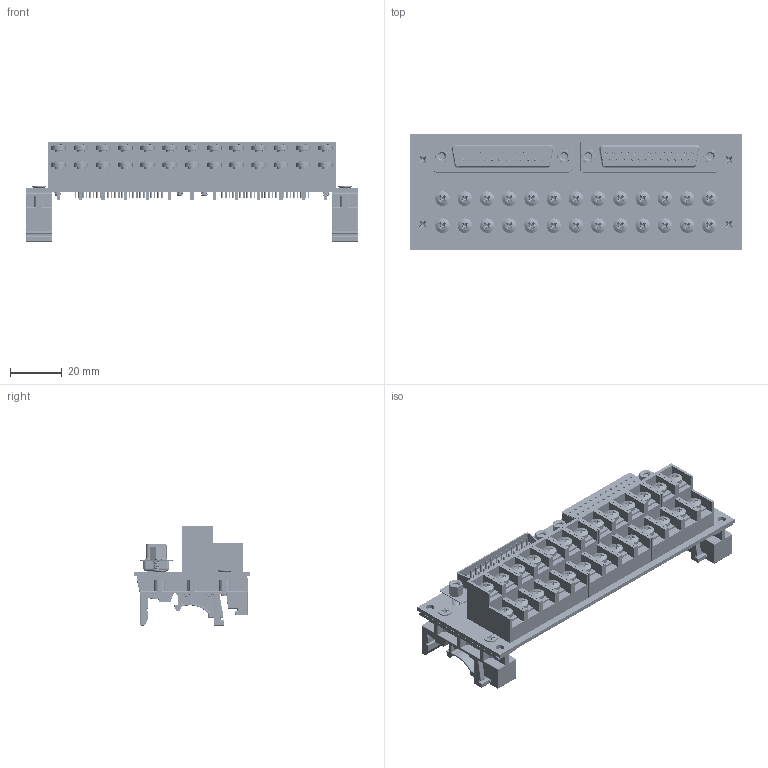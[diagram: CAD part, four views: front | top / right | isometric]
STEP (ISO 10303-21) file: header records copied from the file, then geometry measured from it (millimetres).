
FILE_DESCRIPTION(('FreeCAD Model'),'2;1');
FILE_NAME('C:/ws/KiCad/interface-terminal-converter/dsub25-terminal/latest/dsub25-terminal/step/db25mf-tb2x13_din_step.step','2020-12-24T22:47:28',( 'Author'),(''),'Open CASCADE STEP processor 7.3','FreeCAD','Unknown' );
FILE_SCHEMA(('AUTOMOTIVE_DESIGN { 1 0 10303 214 1 1 1 1 }'));
Length unit declared in the file: millimetre
Products named in the file (41): Step_Virtual_Models_fd73; TopV_fd73; DRA1_User_Library-CMI00027_5FC1CAA7; DRA1_M3x10-Screw_5FC1CAA7[2]; DRA1_M3x10-Screw_5FC1CAA7[3]; DRA2_User_Library-CMI00027_5FBEFB21; DRA2_M3x10-Screw_5FBEFB21[2]; DRA2_M3x10-Screw_5FBEFB21[3]; Step_Models_fd73; Top_fd73; J1_DSUB-25_Female_Vertical_P2.77x2.84mm_MountingHoles_5FBEE4FE; J1_74m9499_5205818-2_5FBEE4FE[2]; J1_74m9499_5205818-2_5FBEE4FE[3]; J2_DSUB-25_Male_Vertical_P2.77x2.84mm_MountingHoles_5FBEF1C9; J2_74m9499_5205818-2_5FBEF1C9[2]; J2_74m9499_5205818-2_5FBEF1C9[3]; TB1_KF8500HL-8.5-1P_5FBEE707; TB1_KF8500HL-8.5-1P_5FBEE707[2]; TB1_KF8500HL-8.5-1P_5FBEE707[3]; TB1_KF8500HL-8.5-1P_5FBEE707[4]; TB1_KF8500HL-8.5-1P_5FBEE707[5]; TB1_KF8500HL-8.5-1P_5FBEE707[6]; TB1_KF8500HL-8.5-1P_5FBEE707[7]; TB1_KF8500HL-8.5-1P_5FBEE707[8]; TB1_KF8500HL-8.5-1P_5FBEE707[9]; TB1_KF8500HL-8.5-1P_5FBEE707[10]; TB1_KF8500HL-8.5-1P_5FBEE707[11]; TB1_KF8500HL-8.5-1P_5FBEE707[12]; TB1_KF8500HL-8.5-1P_5FBEE707[13]; Board_Geoms_fd73; Local_CS_fd73; Pcb_fd73; PCB_Sketch_fd73; botSilks_a1fa; topSilks_603c; dsub25-terminal_din
Assembly tree (67 placements, depth 4):
  Step_Virtual_Models_fd73
    TopV_fd73
      DRA1_User_Library-CMI00027_5FC1CAA7
      DRA1_M3x10-Screw_5FC1CAA7[2]
      DRA1_M3x10-Screw_5FC1CAA7[3]
      DRA2_User_Library-CMI00027_5FBEFB21
      DRA2_M3x10-Screw_5FBEFB21[2]
      DRA2_M3x10-Screw_5FBEFB21[3]
  Step_Models_fd73
    Top_fd73
      J1_DSUB-25_Female_Vertical_P2.77x2.84mm_MountingHoles_5FBEE4FE
      J1_74m9499_5205818-2_5FBEE4FE[2]
      J1_74m9499_5205818-2_5FBEE4FE[3]
      J2_DSUB-25_Male_Vertical_P2.77x2.84mm_MountingHoles_5FBEF1C9
      J2_74m9499_5205818-2_5FBEF1C9[2]
      J2_74m9499_5205818-2_5FBEF1C9[3]
      TB1_KF8500HL-8.5-1P_5FBEE707
      TB1_KF8500HL-8.5-1P_5FBEE707[2]
      TB1_KF8500HL-8.5-1P_5FBEE707[3]
      TB1_KF8500HL-8.5-1P_5FBEE707[4]
      TB1_KF8500HL-8.5-1P_5FBEE707[5]
      TB1_KF8500HL-8.5-1P_5FBEE707[6]
      TB1_KF8500HL-8.5-1P_5FBEE707[7]
      TB1_KF8500HL-8.5-1P_5FBEE707[8]
      TB1_KF8500HL-8.5-1P_5FBEE707[9]
      TB1_KF8500HL-8.5-1P_5FBEE707[10]
      TB1_KF8500HL-8.5-1P_5FBEE707[11]
      TB1_KF8500HL-8.5-1P_5FBEE707[12]
      TB1_KF8500HL-8.5-1P_5FBEE707[13]
  Board_Geoms_fd73
    Local_CS_fd73
    Pcb_fd73
    PCB_Sketch_fd73
    botSilks_a1fa
    topSilks_603c
  dsub25-terminal_din
    Board_Geoms_fd73
      Local_CS_fd73
      Pcb_fd73
      PCB_Sketch_fd73
      botSilks_a1fa
      topSilks_603c
    Step_Models_fd73
      Top_fd73
        J1_DSUB-25_Female_Vertical_P2.77x2.84mm_MountingHoles_5FBEE4FE
        J1_74m9499_5205818-2_5FBEE4FE[2]
        J1_74m9499_5205818-2_5FBEE4FE[3]
        J2_DSUB-25_Male_Vertical_P2.77x2.84mm_MountingHoles_5FBEF1C9
        J2_74m9499_5205818-2_5FBEF1C9[2]
        J2_74m9499_5205818-2_5FBEF1C9[3]
        TB1_KF8500HL-8.5-1P_5FBEE707
        TB1_KF8500HL-8.5-1P_5FBEE707[2]
        TB1_KF8500HL-8.5-1P_5FBEE707[3]
        TB1_KF8500HL-8.5-1P_5FBEE707[4]
        TB1_KF8500HL-8.5-1P_5FBEE707[5]
        TB1_KF8500HL-8.5-1P_5FBEE707[6]
        TB1_KF8500HL-8.5-1P_5FBEE707[7]
        TB1_KF8500HL-8.5-1P_5FBEE707[8]
        TB1_KF8500HL-8.5-1P_5FBEE707[9]
        TB1_KF8500HL-8.5-1P_5FBEE707[10]
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Bounding box: 128 x 45 x 38.2 mm (x, y, z)
Volume: 107854.4 mm3; surface area: 113011.1 mm2
Topology: 260 solids, 676 shells, 6978 faces, 75868 edges, 70030 vertices
Faces by surface type: plane 3716, cylinder 1810, cone 594, torus 422, revolution 260, bspline 96, sphere 80
Full cylindrical faces by diameter (mm): 0.64 x200, 0.853 x50, 1 x100, 1.5 x52, 2.5 x52, 3 x60, 3.2 x84, 5.3 x8, 5.6 x52
Entity records: 374135 total; most frequent: CARTESIAN_POINT 90811, DIRECTION 47881, ORIENTED_EDGE 45623, EDGE_CURVE 37860, VERTEX_POINT 35007, LINE 33907, VECTOR 33907, AXIS2_PLACEMENT_3D 6922
